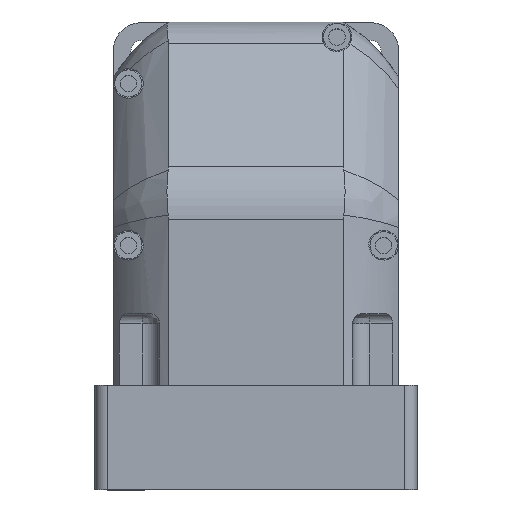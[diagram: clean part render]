
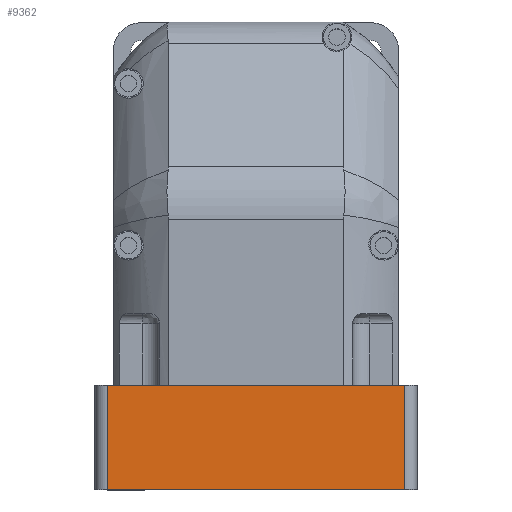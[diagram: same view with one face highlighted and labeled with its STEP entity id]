
A CAD part, top view. The second image highlights one B-rep face of the part: STEP entity #9362.
In plain terms, the highlighted planar face has unit normal (0, 0, 1) as drawn and (0, 1, 0) by its records, which use the part's own axes.
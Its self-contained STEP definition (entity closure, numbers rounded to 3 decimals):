
#9109=CARTESIAN_POINT('',(60.0,65.0,42.0));
#9110=VERTEX_POINT('',#9109);
#9128=CARTESIAN_POINT('',(60.0,65.0,0.0));
#9129=VERTEX_POINT('',#9128);
#9137=CARTESIAN_POINT('',(60.0,65.0,0.0));
#9138=DIRECTION('',(0.0,0.0,1.0));
#9139=VECTOR('',#9138,42.0);
#9140=LINE('',#9137,#9139);
#9141=EDGE_CURVE('',#9129,#9110,#9140,.T.);
#9313=CARTESIAN_POINT('',(-60.,65.0,42.0));
#9314=VERTEX_POINT('',#9313);
#9322=CARTESIAN_POINT('',(-60.,65.0,0.0));
#9323=VERTEX_POINT('',#9322);
#9324=CARTESIAN_POINT('',(-60.,65.0,0.0));
#9325=DIRECTION('',(0.0,0.0,1.0));
#9326=VECTOR('',#9325,42.0);
#9327=LINE('',#9324,#9326);
#9328=EDGE_CURVE('',#9323,#9314,#9327,.T.);
#9341=CARTESIAN_POINT('',(-60.,65.0,0.0));
#9342=DIRECTION('',(0.0,1.0,0.0));
#9343=DIRECTION('',(0.0,0.0,1.0));
#9344=AXIS2_PLACEMENT_3D('',#9341,#9342,#9343);
#9345=PLANE('',#9344);
#9346=CARTESIAN_POINT('',(-60.,65.0,42.0));
#9347=DIRECTION('',(1.0,0.0,0.0));
#9348=VECTOR('',#9347,120.0);
#9349=LINE('',#9346,#9348);
#9350=EDGE_CURVE('',#9314,#9110,#9349,.T.);
#9351=ORIENTED_EDGE('',*,*,#9350,.T.);
#9352=ORIENTED_EDGE('',*,*,#9141,.F.);
#9353=CARTESIAN_POINT('',(-60.,65.0,0.0));
#9354=DIRECTION('',(1.0,0.0,0.0));
#9355=VECTOR('',#9354,120.0);
#9356=LINE('',#9353,#9355);
#9357=EDGE_CURVE('',#9323,#9129,#9356,.T.);
#9358=ORIENTED_EDGE('',*,*,#9357,.F.);
#9359=ORIENTED_EDGE('',*,*,#9328,.T.);
#9360=EDGE_LOOP('',(#9351,#9352,#9358,#9359));
#9361=FACE_OUTER_BOUND('',#9360,.T.);
#9362=ADVANCED_FACE('',(#9361),#9345,.T.);
